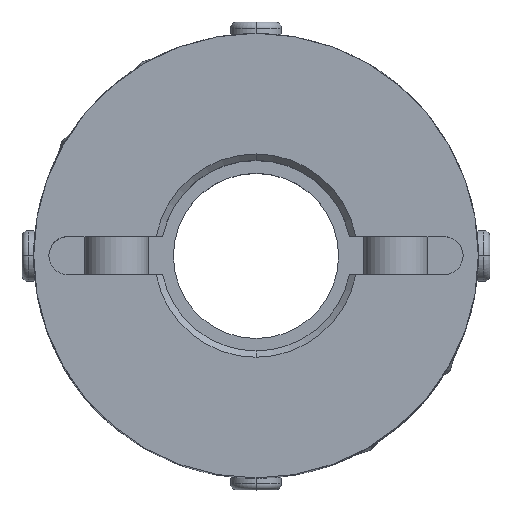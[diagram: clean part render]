
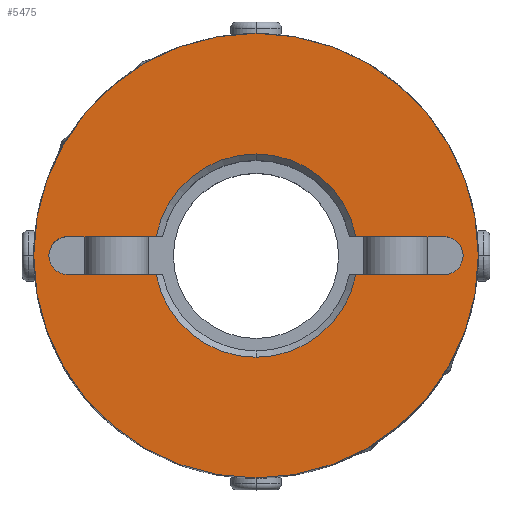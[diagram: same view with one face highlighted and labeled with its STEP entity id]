
A CAD part, top view. The second image highlights one B-rep face of the part: STEP entity #5475.
In plain terms, the highlighted planar face has unit normal (0, 0, 1).
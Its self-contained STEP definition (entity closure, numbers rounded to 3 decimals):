
#2886=CARTESIAN_POINT('',(15.861,1.061,17.5));
#2887=VERTEX_POINT('',#2886);
#2903=CARTESIAN_POINT('',(14.8,-1.5,17.5));
#2904=VERTEX_POINT('',#2903);
#2911=CARTESIAN_POINT('',(14.8,0.,17.5));
#2912=DIRECTION('',(0.0,0.0,1.0));
#2913=DIRECTION('',(0.707,-0.707,0.0));
#2914=AXIS2_PLACEMENT_3D('',#2911,#2912,#2913);
#2915=CIRCLE('',#2914,1.5);
#2916=EDGE_CURVE('',#2904,#2887,#2915,.T.);
#2928=CARTESIAN_POINT('',(-15.861,-1.061,17.5));
#2929=VERTEX_POINT('',#2928);
#2945=CARTESIAN_POINT('',(-14.8,1.5,17.5));
#2946=VERTEX_POINT('',#2945);
#2953=CARTESIAN_POINT('',(-14.8,0.,17.5));
#2954=DIRECTION('',(0.0,0.0,1.0));
#2955=DIRECTION('',(-0.707,0.707,0.0));
#2956=AXIS2_PLACEMENT_3D('',#2953,#2954,#2955);
#2957=CIRCLE('',#2956,1.5);
#2958=EDGE_CURVE('',#2946,#2929,#2957,.T.);
#3460=CARTESIAN_POINT('',(0.,17.5,17.5));
#3461=VERTEX_POINT('',#3460);
#3468=CARTESIAN_POINT('',(0.,-17.5,17.5));
#3469=VERTEX_POINT('',#3468);
#3470=CARTESIAN_POINT('',(0.0,0.0,17.5));
#3471=DIRECTION('',(0.0,0.0,-1.0));
#3472=DIRECTION('',(0.0,-1.0,0.0));
#3473=AXIS2_PLACEMENT_3D('',#3470,#3471,#3472);
#3474=CIRCLE('',#3473,17.5);
#3475=EDGE_CURVE('',#3461,#3469,#3474,.T.);
#4380=CARTESIAN_POINT('',(0.,8.,17.5));
#4381=VERTEX_POINT('',#4380);
#4389=CARTESIAN_POINT('',(7.858,1.5,17.5));
#4390=VERTEX_POINT('',#4389);
#4404=CARTESIAN_POINT('',(0.,0.,17.5));
#4405=DIRECTION('',(0.0,0.0,1.0));
#4406=DIRECTION('',(0.0,1.0,0.0));
#4407=AXIS2_PLACEMENT_3D('',#4404,#4405,#4406);
#4408=CIRCLE('',#4407,8.0);
#4409=EDGE_CURVE('',#4390,#4381,#4408,.T.);
#4419=CARTESIAN_POINT('',(0.,-8.,17.5));
#4420=VERTEX_POINT('',#4419);
#4436=CARTESIAN_POINT('',(-7.858,-1.5,17.5));
#4437=VERTEX_POINT('',#4436);
#4451=CARTESIAN_POINT('',(0.,0.,17.5));
#4452=DIRECTION('',(0.0,0.0,1.0));
#4453=DIRECTION('',(0.0,-1.0,0.0));
#4454=AXIS2_PLACEMENT_3D('',#4451,#4452,#4453);
#4455=CIRCLE('',#4454,8.);
#4456=EDGE_CURVE('',#4437,#4420,#4455,.T.);
#5191=CARTESIAN_POINT('',(14.8,1.5,17.5));
#5192=VERTEX_POINT('',#5191);
#5199=CARTESIAN_POINT('',(7.858,1.5,17.5));
#5200=DIRECTION('',(1.0,0.0,0.0));
#5201=VECTOR('',#5200,6.942);
#5202=LINE('',#5199,#5201);
#5203=EDGE_CURVE('',#4390,#5192,#5202,.T.);
#5360=CARTESIAN_POINT('',(7.858,-1.5,17.5));
#5361=VERTEX_POINT('',#5360);
#5375=CARTESIAN_POINT('',(14.8,-1.5,17.5));
#5376=DIRECTION('',(-1.0,0.0,0.0));
#5377=VECTOR('',#5376,6.942);
#5378=LINE('',#5375,#5377);
#5379=EDGE_CURVE('',#2904,#5361,#5378,.T.);
#5402=CARTESIAN_POINT('',(0.,0.,17.5));
#5403=DIRECTION('',(0.0,0.0,1.0));
#5404=DIRECTION('',(0.0,-1.0,0.0));
#5405=AXIS2_PLACEMENT_3D('',#5402,#5403,#5404);
#5406=CIRCLE('',#5405,8.);
#5407=EDGE_CURVE('',#4420,#5361,#5406,.T.);
#5414=CARTESIAN_POINT('',(0.,-1.591,17.5));
#5415=DIRECTION('',(0.0,0.0,1.0));
#5416=DIRECTION('',(0.0,-1.0,0.0));
#5417=AXIS2_PLACEMENT_3D('',#5414,#5415,#5416);
#5418=PLANE('',#5417);
#5419=CARTESIAN_POINT('',(0.0,0.0,17.5));
#5420=DIRECTION('',(0.0,0.0,-1.0));
#5421=DIRECTION('',(0.0,-1.0,0.0));
#5422=AXIS2_PLACEMENT_3D('',#5419,#5420,#5421);
#5423=CIRCLE('',#5422,17.5);
#5424=EDGE_CURVE('',#3469,#3461,#5423,.T.);
#5425=ORIENTED_EDGE('',*,*,#5424,.F.);
#5426=ORIENTED_EDGE('',*,*,#3475,.F.);
#5427=EDGE_LOOP('',(#5425,#5426));
#5428=FACE_OUTER_BOUND('',#5427,.T.);
#5429=ORIENTED_EDGE('',*,*,#4456,.F.);
#5430=CARTESIAN_POINT('',(-14.8,-1.5,17.5));
#5431=VERTEX_POINT('',#5430);
#5432=CARTESIAN_POINT('',(-7.858,-1.5,17.5));
#5433=DIRECTION('',(-1.0,0.0,0.0));
#5434=VECTOR('',#5433,6.942);
#5435=LINE('',#5432,#5434);
#5436=EDGE_CURVE('',#4437,#5431,#5435,.T.);
#5437=ORIENTED_EDGE('',*,*,#5436,.T.);
#5438=CARTESIAN_POINT('',(-14.8,0.,17.5));
#5439=DIRECTION('',(0.0,0.0,1.0));
#5440=DIRECTION('',(-0.707,0.707,0.0));
#5441=AXIS2_PLACEMENT_3D('',#5438,#5439,#5440);
#5442=CIRCLE('',#5441,1.5);
#5443=EDGE_CURVE('',#2929,#5431,#5442,.T.);
#5444=ORIENTED_EDGE('',*,*,#5443,.F.);
#5445=ORIENTED_EDGE('',*,*,#2958,.F.);
#5446=CARTESIAN_POINT('',(-7.858,1.5,17.5));
#5447=VERTEX_POINT('',#5446);
#5448=CARTESIAN_POINT('',(-14.8,1.5,17.5));
#5449=DIRECTION('',(1.0,0.0,0.0));
#5450=VECTOR('',#5449,6.942);
#5451=LINE('',#5448,#5450);
#5452=EDGE_CURVE('',#2946,#5447,#5451,.T.);
#5453=ORIENTED_EDGE('',*,*,#5452,.T.);
#5454=CARTESIAN_POINT('',(0.,0.,17.5));
#5455=DIRECTION('',(0.0,0.0,1.0));
#5456=DIRECTION('',(0.0,1.0,0.0));
#5457=AXIS2_PLACEMENT_3D('',#5454,#5455,#5456);
#5458=CIRCLE('',#5457,8.0);
#5459=EDGE_CURVE('',#4381,#5447,#5458,.T.);
#5460=ORIENTED_EDGE('',*,*,#5459,.F.);
#5461=ORIENTED_EDGE('',*,*,#4409,.F.);
#5462=ORIENTED_EDGE('',*,*,#5203,.T.);
#5463=CARTESIAN_POINT('',(14.8,0.,17.5));
#5464=DIRECTION('',(0.0,0.0,1.0));
#5465=DIRECTION('',(0.707,-0.707,0.0));
#5466=AXIS2_PLACEMENT_3D('',#5463,#5464,#5465);
#5467=CIRCLE('',#5466,1.5);
#5468=EDGE_CURVE('',#2887,#5192,#5467,.T.);
#5469=ORIENTED_EDGE('',*,*,#5468,.F.);
#5470=ORIENTED_EDGE('',*,*,#2916,.F.);
#5471=ORIENTED_EDGE('',*,*,#5379,.T.);
#5472=ORIENTED_EDGE('',*,*,#5407,.F.);
#5473=EDGE_LOOP('',(#5429,#5437,#5444,#5445,#5453,#5460,#5461,#5462,#5469,#5470,#5471,#5472));
#5474=FACE_BOUND('',#5473,.T.);
#5475=ADVANCED_FACE('',(#5428,#5474),#5418,.T.);
